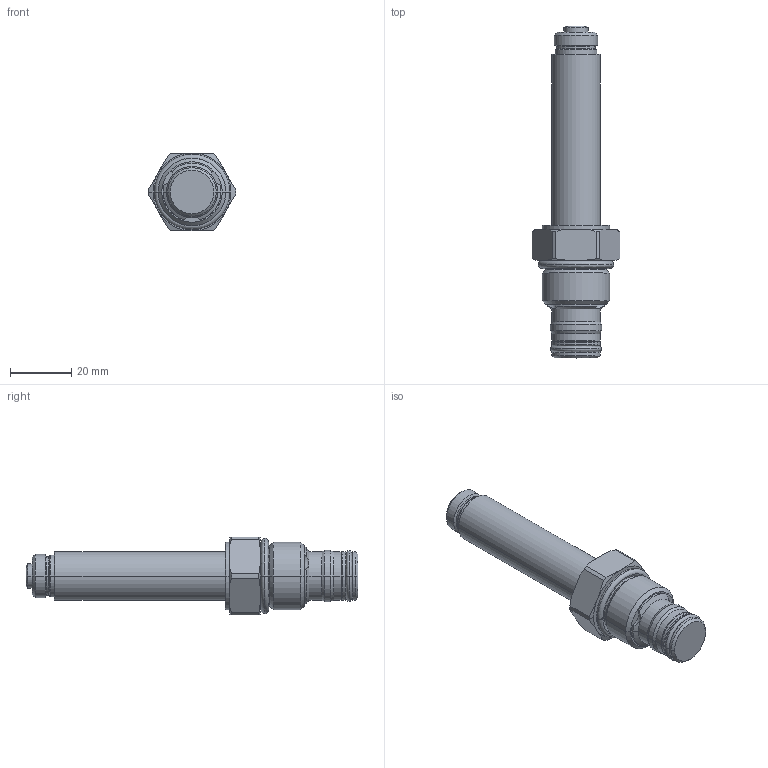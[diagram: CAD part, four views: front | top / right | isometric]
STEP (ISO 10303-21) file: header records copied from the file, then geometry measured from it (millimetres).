
FILE_DESCRIPTION((''),'2;1');
FILE_NAME('5122100_SW0003','2009-03-25T',('JCS'),(''),'PRO/ENGINEER BY PARAMETRIC TECHNOLOGY CORPORATION, 2008510','PRO/ENGINEER BY PARAMETRIC TECHNOLOGY CORPORATION, 2008510','');
FILE_SCHEMA(('CONFIG_CONTROL_DESIGN'));
Length unit declared in the file: inch
Products named in the file (1): 5122100_SW0003
Bounding box: 28.57 x 108.35 x 25.4 mm (x, y, z)
Volume: 27247 mm3; surface area: 8398.4 mm2
Topology: 4 solids, 5 shells, 170 faces, 367 edges, 207 vertices
Faces by surface type: cone 55, cylinder 45, torus 28, plane 23, revolution 16, sphere 3
Entity records: 5121 total; most frequent: CARTESIAN_POINT 1367, DIRECTION 835, ORIENTED_EDGE 730, EDGE_CURVE 365, AXIS2_PLACEMENT_3D 355, VERTEX_POINT 207, CIRCLE 201, EDGE_LOOP 180
